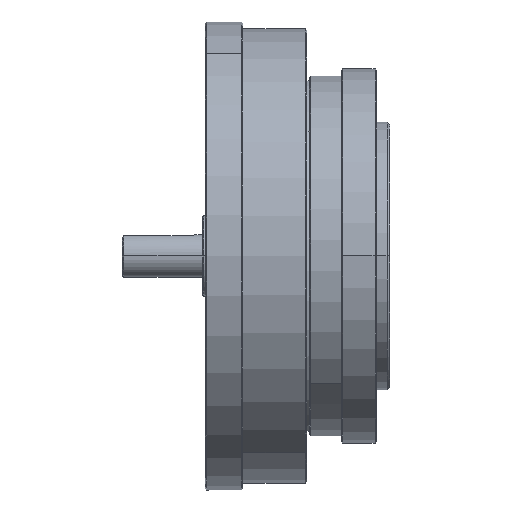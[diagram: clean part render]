
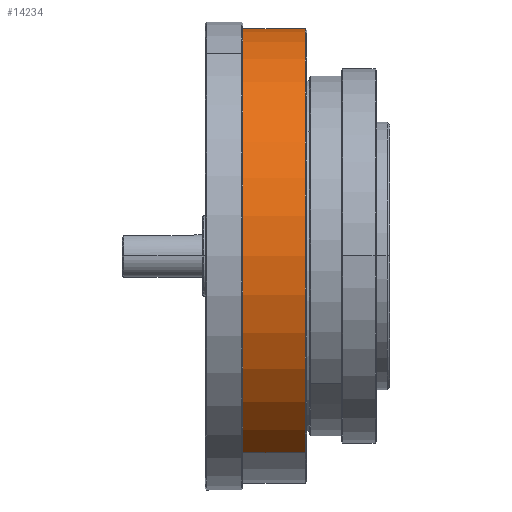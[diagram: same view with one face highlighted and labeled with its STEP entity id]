
A CAD part, top view. The second image highlights one B-rep face of the part: STEP entity #14234.
In plain terms, the highlighted cylindrical face has radius 85 mm (diameter 170 mm), a partial arc.
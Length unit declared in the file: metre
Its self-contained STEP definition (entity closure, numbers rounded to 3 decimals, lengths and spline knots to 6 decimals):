
#321 = VERTEX_POINT ( 'NONE', #18486 ) ;
#1734 = DIRECTION ( 'NONE',  ( 1., 0., 0. ) ) ;
#8710 = CIRCLE ( 'NONE', #51523, 0.085 ) ;
#9046 = VERTEX_POINT ( 'NONE', #46547 ) ;
#9131 = CYLINDRICAL_SURFACE ( 'NONE', #63806, 0.085 ) ;
#11023 = LINE ( 'NONE', #19841, #57484 ) ;
#14234 = ADVANCED_FACE ( 'NONE', ( #53910 ), #9131, .T. ) ;
#17083 = DIRECTION ( 'NONE',  ( 0., 0.866, -0.5 ) ) ;
#18486 = CARTESIAN_POINT ( 'NONE',  ( 0.0145, 0.073612, -0.0425 ) ) ;
#19841 = CARTESIAN_POINT ( 'NONE',  ( 0.037466, 0.073612, -0.0425 ) ) ;
#20840 = VERTEX_POINT ( 'NONE', #48401 ) ;
#21175 = ORIENTED_EDGE ( 'NONE', *, *, #29697, .T. ) ;
#27150 = CARTESIAN_POINT ( 'NONE',  ( -0.0135, -0.073612, 0.0425 ) ) ;
#27260 = DIRECTION ( 'NONE',  ( 0., 0.866, -0.5 ) ) ;
#29697 = EDGE_CURVE ( 'NONE', #20840, #321, #48891, .T. ) ;
#33645 = DIRECTION ( 'NONE',  ( 0., 0.866, -0.5 ) ) ;
#34538 = VECTOR ( 'NONE', #61315, 1. ) ;
#34898 = DIRECTION ( 'NONE',  ( 1., 0., 0. ) ) ;
#35807 = ORIENTED_EDGE ( 'NONE', *, *, #51810, .F. ) ;
#36379 = CARTESIAN_POINT ( 'NONE',  ( -0.0135, 0., 0. ) ) ;
#38038 = CARTESIAN_POINT ( 'NONE',  ( 0.0145, 0., 0. ) ) ;
#40941 = EDGE_CURVE ( 'NONE', #9046, #49985, #8710, .T. ) ;
#42990 = ORIENTED_EDGE ( 'NONE', *, *, #51886, .T. ) ;
#45766 = AXIS2_PLACEMENT_3D ( 'NONE', #38038, #62207, #27260 ) ;
#46295 = LINE ( 'NONE', #46927, #34538 ) ;
#46547 = CARTESIAN_POINT ( 'NONE',  ( -0.0135, 0.073612, -0.0425 ) ) ;
#46927 = CARTESIAN_POINT ( 'NONE',  ( 0.037466, -0.073612, 0.0425 ) ) ;
#48401 = CARTESIAN_POINT ( 'NONE',  ( 0.0145, -0.073612, 0.0425 ) ) ;
#48674 = CARTESIAN_POINT ( 'NONE',  ( 0.037466, 0., 0. ) ) ;
#48891 = CIRCLE ( 'NONE', #45766, 0.085 ) ;
#49985 = VERTEX_POINT ( 'NONE', #27150 ) ;
#51523 = AXIS2_PLACEMENT_3D ( 'NONE', #36379, #1734, #17083 ) ;
#51810 = EDGE_CURVE ( 'NONE', #9046, #321, #11023, .T. ) ;
#51886 = EDGE_CURVE ( 'NONE', #49985, #20840, #46295, .T. ) ;
#53910 = FACE_OUTER_BOUND ( 'NONE', #54857, .T. ) ;
#53961 = ORIENTED_EDGE ( 'NONE', *, *, #40941, .T. ) ;
#54857 = EDGE_LOOP ( 'NONE', ( #53961, #42990, #21175, #35807 ) ) ;
#57484 = VECTOR ( 'NONE', #34898, 1. ) ;
#61315 = DIRECTION ( 'NONE',  ( 1., 0., 0. ) ) ;
#62207 = DIRECTION ( 'NONE',  ( -1., 0., 0. ) ) ;
#63367 = DIRECTION ( 'NONE',  ( 1., 0., 0. ) ) ;
#63806 = AXIS2_PLACEMENT_3D ( 'NONE', #48674, #63367, #33645 ) ;
